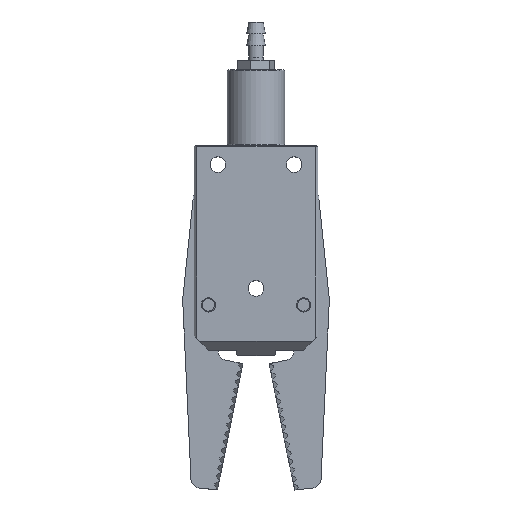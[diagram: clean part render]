
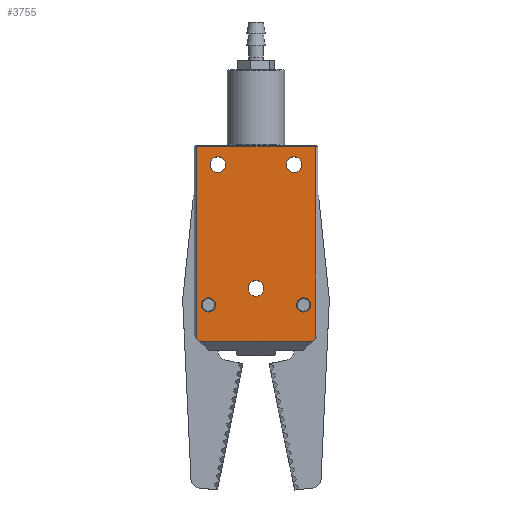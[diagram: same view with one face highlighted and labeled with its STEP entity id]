
A CAD part, top view. The second image highlights one B-rep face of the part: STEP entity #3755.
In plain terms, the highlighted planar face has unit normal (0, 0, 1).
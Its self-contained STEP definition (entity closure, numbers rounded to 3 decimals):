
#1964=PLANE('',#7228);
#2459=LINE('',#8998,#3112);
#2460=LINE('',#9001,#3113);
#2461=LINE('',#9003,#3114);
#2462=LINE('',#9005,#3115);
#2463=LINE('',#9007,#3116);
#2464=LINE('',#9009,#3117);
#3112=VECTOR('',#7630,1.);
#3113=VECTOR('',#7631,1.);
#3114=VECTOR('',#7632,1.);
#3115=VECTOR('',#7633,1.);
#3116=VECTOR('',#7634,1.);
#3117=VECTOR('',#7635,1.);
#3755=ADVANCED_FACE('',(#4049,#4050,#4051,#4052,#4053,#4054),#1964,.F.);
#4049=FACE_BOUND('',#4117,.T.);
#4050=FACE_BOUND('',#4118,.T.);
#4051=FACE_BOUND('',#4119,.T.);
#4052=FACE_BOUND('',#4120,.T.);
#4053=FACE_BOUND('',#4121,.T.);
#4054=FACE_BOUND('',#4122,.T.);
#4117=EDGE_LOOP('',(#4458));
#4118=EDGE_LOOP('',(#4459));
#4119=EDGE_LOOP('',(#4460));
#4120=EDGE_LOOP('',(#4461));
#4121=EDGE_LOOP('',(#4462));
#4122=EDGE_LOOP('',(#4463,#4464,#4465,#4466,#4467,#4468));
#4458=ORIENTED_EDGE('',*,*,#6408,.F.);
#4459=ORIENTED_EDGE('',*,*,#6410,.F.);
#4460=ORIENTED_EDGE('',*,*,#6412,.F.);
#4461=ORIENTED_EDGE('',*,*,#6414,.F.);
#4462=ORIENTED_EDGE('',*,*,#6406,.F.);
#4463=ORIENTED_EDGE('',*,*,#6440,.T.);
#4464=ORIENTED_EDGE('',*,*,#6441,.F.);
#4465=ORIENTED_EDGE('',*,*,#6442,.T.);
#4466=ORIENTED_EDGE('',*,*,#6443,.F.);
#4467=ORIENTED_EDGE('',*,*,#6444,.F.);
#4468=ORIENTED_EDGE('',*,*,#6445,.F.);
#5904=VERTEX_POINT('',#8892);
#5906=VERTEX_POINT('',#8897);
#5908=VERTEX_POINT('',#8902);
#5910=VERTEX_POINT('',#8907);
#5912=VERTEX_POINT('',#8912);
#5938=VERTEX_POINT('',#8999);
#5939=VERTEX_POINT('',#9000);
#5940=VERTEX_POINT('',#9002);
#5941=VERTEX_POINT('',#9004);
#5942=VERTEX_POINT('',#9006);
#5943=VERTEX_POINT('',#9008);
#6406=EDGE_CURVE('',#5904,#5904,#7129,.T.);
#6408=EDGE_CURVE('',#5906,#5906,#7131,.T.);
#6410=EDGE_CURVE('',#5908,#5908,#7133,.T.);
#6412=EDGE_CURVE('',#5910,#5910,#7135,.T.);
#6414=EDGE_CURVE('',#5912,#5912,#7137,.T.);
#6440=EDGE_CURVE('',#5938,#5939,#2459,.T.);
#6441=EDGE_CURVE('',#5940,#5939,#2460,.T.);
#6442=EDGE_CURVE('',#5940,#5941,#2461,.T.);
#6443=EDGE_CURVE('',#5942,#5941,#2462,.T.);
#6444=EDGE_CURVE('',#5943,#5942,#2463,.T.);
#6445=EDGE_CURVE('',#5938,#5943,#2464,.T.);
#7129=CIRCLE('',#7199,1.5);
#7131=CIRCLE('',#7202,1.65);
#7133=CIRCLE('',#7205,1.65);
#7135=CIRCLE('',#7208,1.65);
#7137=CIRCLE('',#7211,1.5);
#7199=AXIS2_PLACEMENT_3D('',#8891,#7564,#7565);
#7202=AXIS2_PLACEMENT_3D('',#8896,#7570,#7571);
#7205=AXIS2_PLACEMENT_3D('',#8901,#7576,#7577);
#7208=AXIS2_PLACEMENT_3D('',#8906,#7582,#7583);
#7211=AXIS2_PLACEMENT_3D('',#8911,#7588,#7589);
#7228=AXIS2_PLACEMENT_3D('',#9010,#7636,#7637);
#7564=DIRECTION('',(0.,0.,1.));
#7565=DIRECTION('',(0.,1.,0.));
#7570=DIRECTION('',(0.,0.,1.));
#7571=DIRECTION('',(0.,1.,0.));
#7576=DIRECTION('',(0.,0.,1.));
#7577=DIRECTION('',(0.,1.,0.));
#7582=DIRECTION('',(0.,0.,1.));
#7583=DIRECTION('',(0.,1.,0.));
#7588=DIRECTION('',(0.,0.,1.));
#7589=DIRECTION('',(0.,1.,0.));
#7630=DIRECTION('',(0.707,-0.707,0.));
#7631=DIRECTION('',(-1.,0.,0.));
#7632=DIRECTION('',(0.707,0.707,0.));
#7633=DIRECTION('',(0.,-1.,0.));
#7634=DIRECTION('',(1.,0.,0.));
#7635=DIRECTION('',(0.,1.,0.));
#7636=DIRECTION('',(0.,0.,-1.));
#7637=DIRECTION('',(1.,0.,0.));
#8891=CARTESIAN_POINT('',(80.981,-12.921,66.7));
#8892=CARTESIAN_POINT('',(80.981,-11.421,66.7));
#8896=CARTESIAN_POINT('',(90.981,-9.421,66.7));
#8897=CARTESIAN_POINT('',(90.981,-7.771,66.7));
#8901=CARTESIAN_POINT('',(82.981,16.579,66.7));
#8902=CARTESIAN_POINT('',(82.981,18.229,66.7));
#8906=CARTESIAN_POINT('',(98.981,16.579,66.7));
#8907=CARTESIAN_POINT('',(98.981,18.229,66.7));
#8911=CARTESIAN_POINT('',(100.981,-12.921,66.7));
#8912=CARTESIAN_POINT('',(100.981,-11.421,66.7));
#8998=CARTESIAN_POINT('',(79.481,-20.921,66.7));
#8999=CARTESIAN_POINT('',(78.481,-19.921,66.7));
#9000=CARTESIAN_POINT('',(79.131,-20.571,66.7));
#9001=CARTESIAN_POINT('',(90.981,-20.571,66.7));
#9002=CARTESIAN_POINT('',(102.831,-20.571,66.7));
#9003=CARTESIAN_POINT('',(102.481,-20.921,66.7));
#9004=CARTESIAN_POINT('',(103.481,-19.921,66.7));
#9005=CARTESIAN_POINT('',(103.481,-0.096,66.7));
#9006=CARTESIAN_POINT('',(103.481,20.379,66.7));
#9007=CARTESIAN_POINT('',(90.981,20.379,66.7));
#9008=CARTESIAN_POINT('',(78.481,20.379,66.7));
#9009=CARTESIAN_POINT('',(78.481,-0.096,66.7));
#9010=CARTESIAN_POINT('',(103.481,-20.571,66.7));
